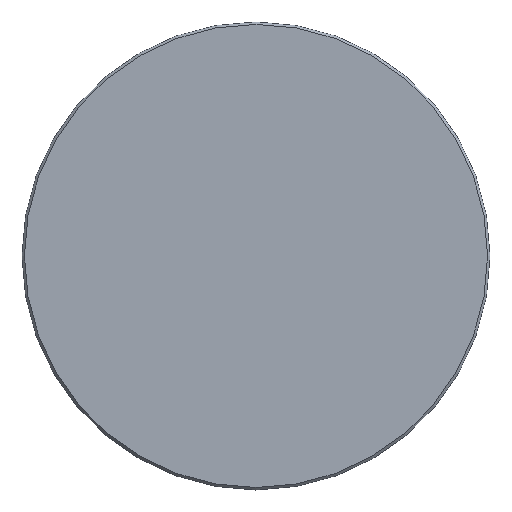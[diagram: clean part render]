
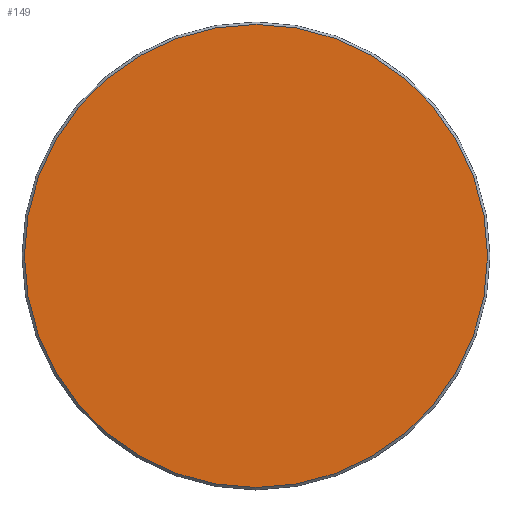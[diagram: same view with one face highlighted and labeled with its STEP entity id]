
A CAD part, top view. The second image highlights one B-rep face of the part: STEP entity #149.
In plain terms, the highlighted planar face has unit normal (0, 0, 1).
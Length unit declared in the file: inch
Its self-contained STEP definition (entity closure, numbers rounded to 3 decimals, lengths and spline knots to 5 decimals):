
#38=CARTESIAN_POINT('',(0.,0.,
0.));
#39=DIRECTION('',(0.,0.,1.));
#40=DIRECTION('',(1.,0.,0.));
#41=AXIS2_PLACEMENT_3D('',#38,#39,#40);
#43=CARTESIAN_POINT('',(0.,0.,0.));
#44=DIRECTION('',(0.,0.,1.));
#45=DIRECTION('',(-1.,0.,0.));
#46=AXIS2_PLACEMENT_3D('',#43,#44,#45);
#66=CARTESIAN_POINT('',(2.845,0.,0.));
#67=CARTESIAN_POINT('',(-2.845,0.,0.));
#68=VERTEX_POINT('',#66);
#69=VERTEX_POINT('',#67);
#139=CARTESIAN_POINT('',(0.,0.,0.));
#140=DIRECTION('',(0.,0.,-1.));
#141=DIRECTION('',(-1.,0.,0.));
#142=AXIS2_PLACEMENT_3D('',#139,#140,#141);
#143=PLANE('',#142);
#144=ORIENTED_EDGE('',*,*,#129,.F.);
#146=ORIENTED_EDGE('',*,*,#145,.F.);
#147=EDGE_LOOP('',(#144,#146));
#148=FACE_OUTER_BOUND('',#147,.F.);
#149=ADVANCED_FACE('',(#148),#143,.F.);
#42=CIRCLE('',#41,2.845);
#47=CIRCLE('',#46,2.845);
#129=EDGE_CURVE('',#68,#69,#42,.T.);
#145=EDGE_CURVE('',#69,#68,#47,.T.);
